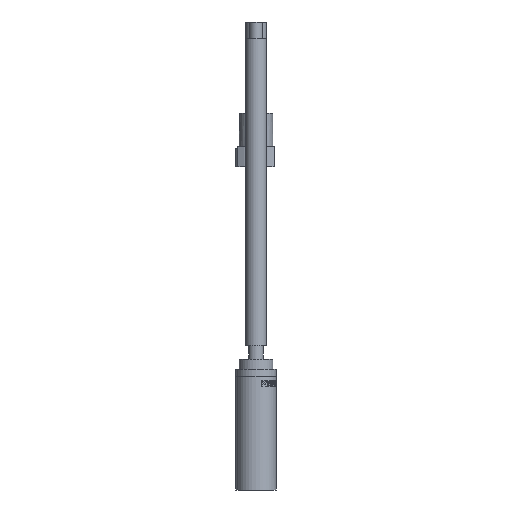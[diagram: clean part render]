
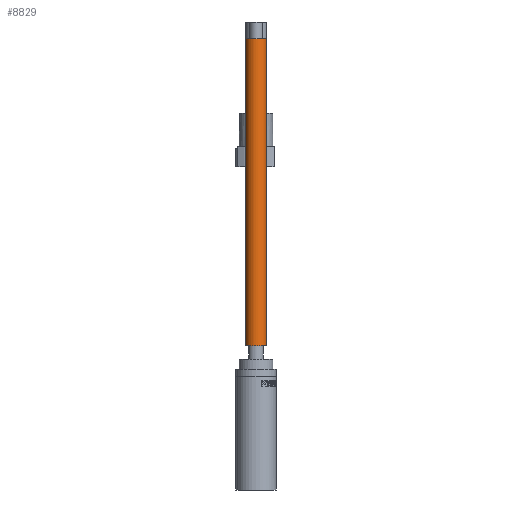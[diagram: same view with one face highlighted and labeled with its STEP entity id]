
A CAD part, left-side view. The second image highlights one B-rep face of the part: STEP entity #8829.
In plain terms, the highlighted cylindrical face has radius 1.5 mm (diameter 3 mm), a full revolution.
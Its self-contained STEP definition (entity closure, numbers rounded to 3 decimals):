
#8829=ADVANCED_FACE('',(#9663,#9664),#9113,.T.);
#9113=CYLINDRICAL_SURFACE('',#20592,1.5);
#9663=FACE_BOUND('',#10932,.T.);
#9664=FACE_BOUND('',#10933,.T.);
#10932=EDGE_LOOP('',(#14886));
#10933=EDGE_LOOP('',(#14887));
#14886=ORIENTED_EDGE('',*,*,#18787,.F.);
#14887=ORIENTED_EDGE('',*,*,#18788,.T.);
#16710=VERTEX_POINT('',#40106);
#16711=VERTEX_POINT('',#40108);
#18787=EDGE_CURVE('',#16710,#16710,#19426,.T.);
#18788=EDGE_CURVE('',#16711,#16711,#19427,.T.);
#19426=CIRCLE('',#20590,1.5);
#19427=CIRCLE('',#20591,1.5);
#20590=AXIS2_PLACEMENT_3D('',#40105,#23309,#23310);
#20591=AXIS2_PLACEMENT_3D('',#40107,#23311,#23312);
#20592=AXIS2_PLACEMENT_3D('',#40109,#23313,#23314);
#23309=DIRECTION('',(0.,0.,-1.));
#23310=DIRECTION('',(-1.,0.,0.));
#23311=DIRECTION('',(0.,0.,-1.));
#23312=DIRECTION('',(-1.,0.,0.));
#23313=DIRECTION('',(0.,0.,-1.));
#23314=DIRECTION('',(-1.,0.,0.));
#40105=CARTESIAN_POINT('',(-52.,0.,21.4));
#40106=CARTESIAN_POINT('',(-53.5,0.,21.4));
#40107=CARTESIAN_POINT('',(-52.,0.,66.9));
#40108=CARTESIAN_POINT('',(-53.5,0.,66.9));
#40109=CARTESIAN_POINT('',(-52.,0.,17.9));
